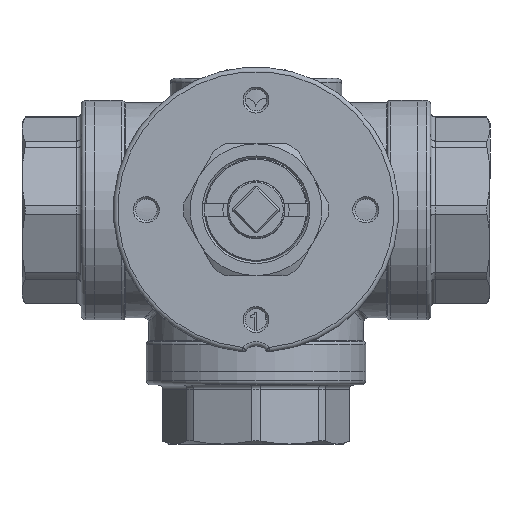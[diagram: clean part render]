
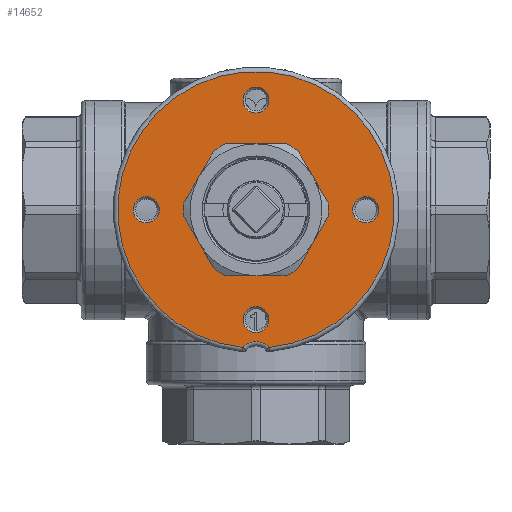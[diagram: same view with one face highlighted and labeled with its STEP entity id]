
A CAD part, top view. The second image highlights one B-rep face of the part: STEP entity #14652.
In plain terms, the highlighted planar face has unit normal (0, 0, 1) as drawn and (-1, 0, 0) by its records, which use the part's own axes.
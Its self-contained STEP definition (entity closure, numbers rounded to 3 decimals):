
#14568=CARTESIAN_POINT('',(-12.5,2.959,-25.0));
#14569=VERTEX_POINT('',#14568);
#14570=CARTESIAN_POINT('',(-12.5,0.,-25.0));
#14571=DIRECTION('',(-1.0,0.0,0.0));
#14572=DIRECTION('',(0.0,-1.0,0.0));
#14573=AXIS2_PLACEMENT_3D('',#14570,#14571,#14572);
#14574=CIRCLE('',#14573,2.959);
#14575=EDGE_CURVE('',#14569,#14569,#14574,.T.);
#14580=CARTESIAN_POINT('',(-12.5,16.25,0.0));
#14581=DIRECTION('',(-1.0,0.0,0.0));
#14582=DIRECTION('',(0.0,0.0,1.0));
#14583=AXIS2_PLACEMENT_3D('',#14580,#14581,#14582);
#14584=PLANE('',#14583);
#14585=CARTESIAN_POINT('',(-12.5,3.002,31.357));
#14586=VERTEX_POINT('',#14585);
#14587=CARTESIAN_POINT('',(-12.5,-3.002,31.357));
#14588=VERTEX_POINT('',#14587);
#14589=CARTESIAN_POINT('',(-12.5,0.,34.0));
#14590=DIRECTION('',(-1.0,0.0,0.0));
#14591=DIRECTION('',(0.0,0.0,-1.0));
#14592=AXIS2_PLACEMENT_3D('',#14589,#14590,#14591);
#14593=CIRCLE('',#14592,4.0);
#14594=EDGE_CURVE('',#14586,#14588,#14593,.T.);
#14595=ORIENTED_EDGE('',*,*,#14594,.F.);
#14596=CARTESIAN_POINT('',(-12.5,0.,0.0));
#14597=DIRECTION('',(1.0,0.0,0.0));
#14598=DIRECTION('',(0.0,-1.0,0.0));
#14599=AXIS2_PLACEMENT_3D('',#14596,#14597,#14598);
#14600=CIRCLE('',#14599,31.5);
#14601=EDGE_CURVE('',#14588,#14586,#14600,.T.);
#14602=ORIENTED_EDGE('',*,*,#14601,.F.);
#14603=EDGE_LOOP('',(#14595,#14602));
#14604=FACE_OUTER_BOUND('',#14603,.T.);
#14605=CARTESIAN_POINT('',(-12.5,27.958,0.));
#14606=VERTEX_POINT('',#14605);
#14607=CARTESIAN_POINT('',(-12.5,25.0,0.0));
#14608=DIRECTION('',(-1.0,0.0,0.0));
#14609=DIRECTION('',(0.0,-1.0,0.0));
#14610=AXIS2_PLACEMENT_3D('',#14607,#14608,#14609);
#14611=CIRCLE('',#14610,2.958);
#14612=EDGE_CURVE('',#14606,#14606,#14611,.T.);
#14613=ORIENTED_EDGE('',*,*,#14612,.F.);
#14614=EDGE_LOOP('',(#14613));
#14615=FACE_BOUND('',#14614,.T.);
#14616=CARTESIAN_POINT('',(-12.5,2.959,25.0));
#14617=VERTEX_POINT('',#14616);
#14618=CARTESIAN_POINT('',(-12.5,0.,25.0));
#14619=DIRECTION('',(-1.0,0.0,0.0));
#14620=DIRECTION('',(0.0,-1.0,0.0));
#14621=AXIS2_PLACEMENT_3D('',#14618,#14619,#14620);
#14622=CIRCLE('',#14621,2.959);
#14623=EDGE_CURVE('',#14617,#14617,#14622,.T.);
#14624=ORIENTED_EDGE('',*,*,#14623,.F.);
#14625=EDGE_LOOP('',(#14624));
#14626=FACE_BOUND('',#14625,.T.);
#14627=CARTESIAN_POINT('',(-12.5,-12.5,0.));
#14628=VERTEX_POINT('',#14627);
#14629=CARTESIAN_POINT('',(-12.5,0.,0.0));
#14630=DIRECTION('',(1.0,0.0,0.0));
#14631=DIRECTION('',(0.0,1.0,0.0));
#14632=AXIS2_PLACEMENT_3D('',#14629,#14630,#14631);
#14633=CIRCLE('',#14632,12.5);
#14634=EDGE_CURVE('',#14628,#14628,#14633,.T.);
#14635=ORIENTED_EDGE('',*,*,#14634,.T.);
#14636=EDGE_LOOP('',(#14635));
#14637=FACE_BOUND('',#14636,.T.);
#14638=CARTESIAN_POINT('',(-12.5,-22.042,0.));
#14639=VERTEX_POINT('',#14638);
#14640=CARTESIAN_POINT('',(-12.5,-25.0,0.0));
#14641=DIRECTION('',(-1.0,0.0,0.0));
#14642=DIRECTION('',(0.0,-1.0,0.0));
#14643=AXIS2_PLACEMENT_3D('',#14640,#14641,#14642);
#14644=CIRCLE('',#14643,2.958);
#14645=EDGE_CURVE('',#14639,#14639,#14644,.T.);
#14646=ORIENTED_EDGE('',*,*,#14645,.F.);
#14647=EDGE_LOOP('',(#14646));
#14648=FACE_BOUND('',#14647,.T.);
#14649=ORIENTED_EDGE('',*,*,#14575,.F.);
#14650=EDGE_LOOP('',(#14649));
#14651=FACE_BOUND('',#14650,.T.);
#14652=ADVANCED_FACE('',(#14604,#14615,#14626,#14637,#14648,#14651),#14584,.T.);
